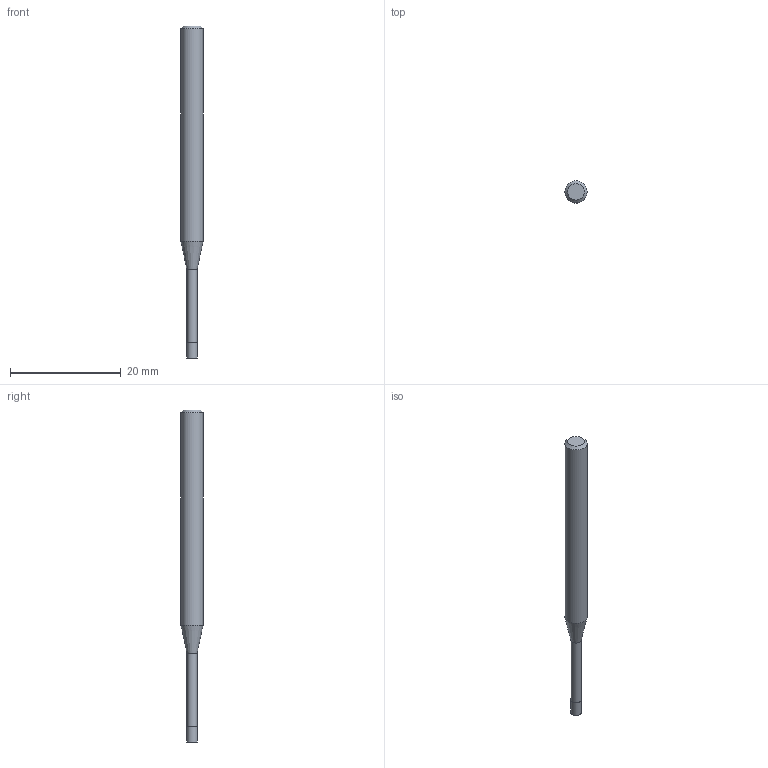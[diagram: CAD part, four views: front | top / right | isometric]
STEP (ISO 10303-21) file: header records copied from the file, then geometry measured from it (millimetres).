
FILE_DESCRIPTION((''),'2;1');
FILE_NAME('C:\Users\nsx150\AppData\Local\Temp\Mastercam 2021\17T8Q8S9EB\TEMP.step','2021-04-21T16:15:33',(''),(''),'STEP Write','Mastercam 2021 ... CNC Software, Inc.','');
FILE_SCHEMA(('AUTOMOTIVE_DESIGN'));
Length unit declared in the file: millimetre
Products named in the file (1): None
Bounding box: 4 x 4 x 60 mm (x, y, z)
Volume: 566.2 mm3; surface area: 646.6 mm2
Topology: 2 solids, 2 shells, 9 faces, 12 edges, 7 vertices
Faces by surface type: plane 4, cylinder 3, cone 2
Full cylindrical faces by diameter (mm): 1.84 x1, 1.9 x1, 4 x1
Entity records: 211 total; most frequent: DIRECTION 36, CARTESIAN_POINT 25, AXIS2_PLACEMENT_3D 18, ORIENTED_EDGE 14, EDGE_LOOP 14, STYLED_ITEM 12, ADVANCED_FACE 9, FACE_BOUND 8
